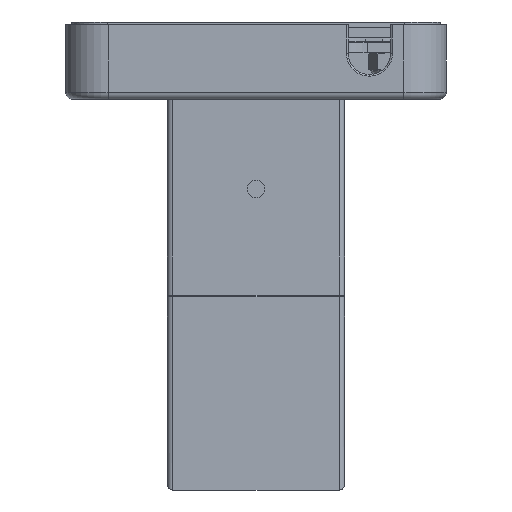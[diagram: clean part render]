
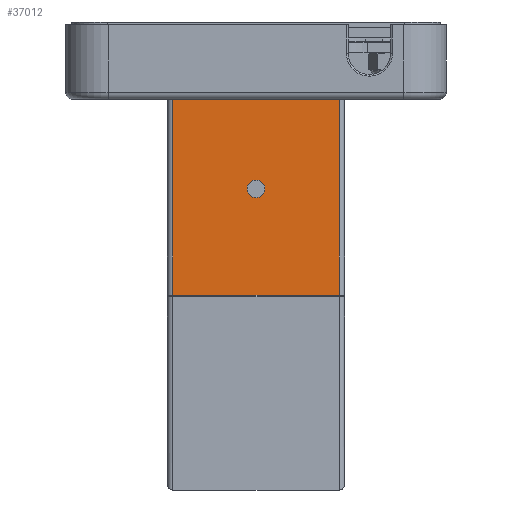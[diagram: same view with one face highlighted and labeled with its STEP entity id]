
A CAD part, front view. The second image highlights one B-rep face of the part: STEP entity #37012.
In plain terms, the highlighted planar face has unit normal (0, -1, 0).
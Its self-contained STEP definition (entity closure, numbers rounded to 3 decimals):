
#2500 = VERTEX_POINT ( 'NONE', #11390 ) ;
#2526 = CIRCLE ( 'NONE', #33754, 2.5 ) ;
#3126 = ORIENTED_EDGE ( 'NONE', *, *, #36223, .F. ) ;
#3275 = LINE ( 'NONE', #36077, #26945 ) ;
#3672 = CARTESIAN_POINT ( 'NONE',  ( 0., -15., 17.75 ) ) ;
#4676 = DIRECTION ( 'NONE',  ( 1., 0., 0. ) ) ;
#4742 = AXIS2_PLACEMENT_3D ( 'NONE', #24151, #18023, #32995 ) ;
#5465 = LINE ( 'NONE', #17709, #22964 ) ;
#6424 = CARTESIAN_POINT ( 'NONE',  ( 0., -15., -23.5 ) ) ;
#7579 = EDGE_CURVE ( 'NONE', #25003, #10970, #2526, .T. ) ;
#8110 = VERTEX_POINT ( 'NONE', #32857 ) ;
#8516 = CARTESIAN_POINT ( 'NONE',  ( 71.4, -15., 23.5 ) ) ;
#8891 = ORIENTED_EDGE ( 'NONE', *, *, #27277, .T. ) ;
#8983 = ORIENTED_EDGE ( 'NONE', *, *, #7579, .F. ) ;
#9708 = VERTEX_POINT ( 'NONE', #8516 ) ;
#10379 = LINE ( 'NONE', #31087, #12524 ) ;
#10391 = DIRECTION ( 'NONE',  ( 0., -1., 0. ) ) ;
#10474 = VERTEX_POINT ( 'NONE', #3672 ) ;
#10483 = DIRECTION ( 'NONE',  ( 0., 1., 0. ) ) ;
#10970 = VERTEX_POINT ( 'NONE', #18386 ) ;
#11390 = CARTESIAN_POINT ( 'NONE',  ( 0., -15., 23.5 ) ) ;
#11760 = CARTESIAN_POINT ( 'NONE',  ( 8., -15., 17.75 ) ) ;
#11947 = DIRECTION ( 'NONE',  ( 0., 0., 1. ) ) ;
#12524 = VECTOR ( 'NONE', #13447, 1000. ) ;
#12646 = DIRECTION ( 'NONE',  ( 0., 0., -1. ) ) ;
#12984 = ORIENTED_EDGE ( 'NONE', *, *, #23983, .T. ) ;
#13082 = DIRECTION ( 'NONE',  ( 0., 0., -1. ) ) ;
#13391 = DIRECTION ( 'NONE',  ( -1., 0., 0. ) ) ;
#13447 = DIRECTION ( 'NONE',  ( 1., 0., 0. ) ) ;
#13533 = EDGE_CURVE ( 'NONE', #30275, #29646, #10379, .T. ) ;
#13766 = CARTESIAN_POINT ( 'NONE',  ( 71.4, -15., -23.5 ) ) ;
#15194 = ORIENTED_EDGE ( 'NONE', *, *, #20626, .F. ) ;
#15863 = DIRECTION ( 'NONE',  ( 0., 0., -1. ) ) ;
#16428 = FACE_OUTER_BOUND ( 'NONE', #20359, .T. ) ;
#17146 = DIRECTION ( 'NONE',  ( -1., 0., 0. ) ) ;
#17709 = CARTESIAN_POINT ( 'NONE',  ( 71.4, -15., 23.5 ) ) ;
#17768 = EDGE_CURVE ( 'NONE', #24051, #30275, #3275, .T. ) ;
#18023 = DIRECTION ( 'NONE',  ( 0., -1., 0. ) ) ;
#18067 = EDGE_LOOP ( 'NONE', ( #8983, #3126 ) ) ;
#18310 = ORIENTED_EDGE ( 'NONE', *, *, #17768, .T. ) ;
#18386 = CARTESIAN_POINT ( 'NONE',  ( 41.4, -15., 2.5 ) ) ;
#18615 = DIRECTION ( 'NONE',  ( 0., 0., -1. ) ) ;
#18969 = VECTOR ( 'NONE', #4676, 1000. ) ;
#19321 = FACE_BOUND ( 'NONE', #18067, .T. ) ;
#19437 = VECTOR ( 'NONE', #13391, 1000. ) ;
#20359 = EDGE_LOOP ( 'NONE', ( #30935, #12984, #18310, #20695, #15194, #28471, #30144, #8891 ) ) ;
#20626 = EDGE_CURVE ( 'NONE', #9708, #29646, #21258, .T. ) ;
#20695 = ORIENTED_EDGE ( 'NONE', *, *, #13533, .T. ) ;
#21049 = AXIS2_PLACEMENT_3D ( 'NONE', #27088, #29779, #11947 ) ;
#21182 = CIRCLE ( 'NONE', #4742, 2.5 ) ;
#21258 = LINE ( 'NONE', #30626, #26024 ) ;
#21739 = LINE ( 'NONE', #33445, #18969 ) ;
#22373 = DIRECTION ( 'NONE',  ( 0., 0., 1. ) ) ;
#22964 = VECTOR ( 'NONE', #17146, 1000. ) ;
#23983 = EDGE_CURVE ( 'NONE', #8110, #24051, #28518, .T. ) ;
#24051 = VERTEX_POINT ( 'NONE', #31582 ) ;
#24151 = CARTESIAN_POINT ( 'NONE',  ( 41.4, -15., 0. ) ) ;
#24975 = CARTESIAN_POINT ( 'NONE',  ( 41.4, -15., 0. ) ) ;
#25003 = VERTEX_POINT ( 'NONE', #31128 ) ;
#25434 = PLANE ( 'NONE',  #30995 ) ;
#26024 = VECTOR ( 'NONE', #15863, 1000. ) ;
#26945 = VECTOR ( 'NONE', #18615, 1000. ) ;
#27088 = CARTESIAN_POINT ( 'NONE',  ( 8., -15., 11. ) ) ;
#27277 = EDGE_CURVE ( 'NONE', #10474, #30787, #21739, .T. ) ;
#28372 = CIRCLE ( 'NONE', #21049, 6.75 ) ;
#28471 = ORIENTED_EDGE ( 'NONE', *, *, #37898, .T. ) ;
#28518 = LINE ( 'NONE', #30827, #19437 ) ;
#29225 = EDGE_CURVE ( 'NONE', #2500, #10474, #35859, .T. ) ;
#29517 = CARTESIAN_POINT ( 'NONE',  ( 0., -15., 25. ) ) ;
#29646 = VERTEX_POINT ( 'NONE', #13766 ) ;
#29779 = DIRECTION ( 'NONE',  ( 0., 1., 0. ) ) ;
#30144 = ORIENTED_EDGE ( 'NONE', *, *, #29225, .T. ) ;
#30275 = VERTEX_POINT ( 'NONE', #6424 ) ;
#30626 = CARTESIAN_POINT ( 'NONE',  ( 71.4, -15., 25. ) ) ;
#30787 = VERTEX_POINT ( 'NONE', #11760 ) ;
#30827 = CARTESIAN_POINT ( 'NONE',  ( 0., -15., 4.25 ) ) ;
#30918 = EDGE_CURVE ( 'NONE', #30787, #8110, #28372, .T. ) ;
#30935 = ORIENTED_EDGE ( 'NONE', *, *, #30918, .T. ) ;
#30995 = AXIS2_PLACEMENT_3D ( 'NONE', #37141, #10483, #22373 ) ;
#31087 = CARTESIAN_POINT ( 'NONE',  ( 71.4, -15., -23.5 ) ) ;
#31128 = CARTESIAN_POINT ( 'NONE',  ( 41.4, -15., -2.5 ) ) ;
#31582 = CARTESIAN_POINT ( 'NONE',  ( 0., -15., 4.25 ) ) ;
#32857 = CARTESIAN_POINT ( 'NONE',  ( 8., -15., 4.25 ) ) ;
#32995 = DIRECTION ( 'NONE',  ( 0., 0., -1. ) ) ;
#33445 = CARTESIAN_POINT ( 'NONE',  ( 8., -15., 17.75 ) ) ;
#33754 = AXIS2_PLACEMENT_3D ( 'NONE', #24975, #10391, #13082 ) ;
#35859 = LINE ( 'NONE', #29517, #36137 ) ;
#36077 = CARTESIAN_POINT ( 'NONE',  ( 0., -15., 25. ) ) ;
#36137 = VECTOR ( 'NONE', #12646, 1000. ) ;
#36223 = EDGE_CURVE ( 'NONE', #10970, #25003, #21182, .T. ) ;
#37012 = ADVANCED_FACE ( 'NONE', ( #19321, #16428 ), #25434, .F. ) ;
#37141 = CARTESIAN_POINT ( 'NONE',  ( 71.4, -15., 25. ) ) ;
#37898 = EDGE_CURVE ( 'NONE', #9708, #2500, #5465, .T. ) ;
